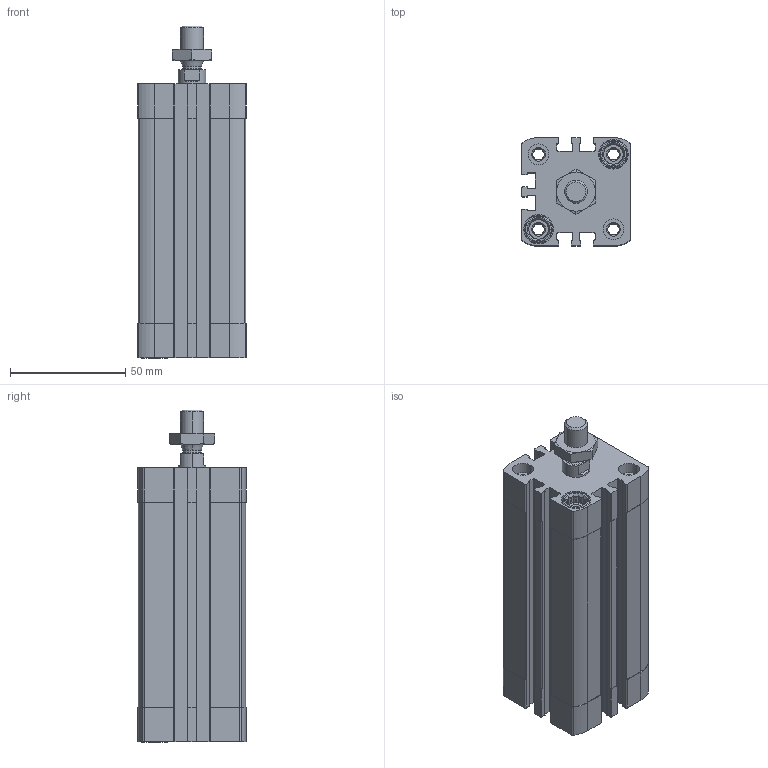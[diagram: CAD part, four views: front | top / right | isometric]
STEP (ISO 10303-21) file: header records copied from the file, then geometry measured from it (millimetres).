
FILE_DESCRIPTION (( 'STEP AP203' ), '1' );
FILE_NAME ('CCN32-75M.STEP', '2017-03-29T13:18:25', ( '' ), ( '' ), 'SwSTEP 2.0', 'SolidWorks 2016', '' );
FILE_SCHEMA (( 'CONFIG_CONTROL_DESIGN' ));
Length unit declared in the file: millimetre
Products named in the file (4): CCN-75---(Z); CCN-75_(KS); _DIN-439-B - M10x1.25(F); CCN32-75M
Assembly tree (3 placements, depth 2):
  CCN32-75M
    CCN-75---(Z)
    CCN-75_(KS)
    _DIN-439-B - M10x1.25(F)
Bounding box: 47 x 47 x 144 mm (x, y, z)
Volume: 166309.2 mm3; surface area: 64387.5 mm2
Topology: 3 solids, 3 shells, 499 faces, 1334 edges, 872 vertices
Faces by surface type: plane 275, cylinder 172, cone 48, bspline 4
Entity records: 16246 total; most frequent: CARTESIAN_POINT 3119, DIRECTION 2720, ORIENTED_EDGE 2668, EDGE_CURVE 1334, AXIS2_PLACEMENT_3D 997, VERTEX_POINT 872, LINE 726, VECTOR 726
